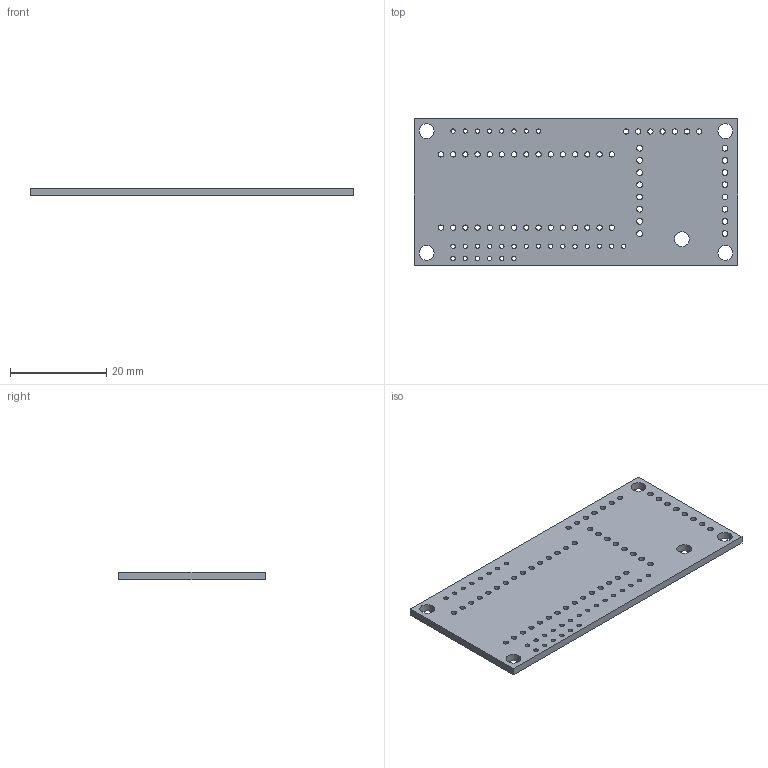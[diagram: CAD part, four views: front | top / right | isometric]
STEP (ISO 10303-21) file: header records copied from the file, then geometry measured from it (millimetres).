
FILE_DESCRIPTION (( 'STEP AP214' ), '1' );
FILE_NAME ('TU_CLASSIC_V1.7.STEP', '2021-06-17T10:57:13', ( '' ), ( '' ), 'SwSTEP 2.0', 'SolidWorks 2020', '' );
FILE_SCHEMA (( 'AUTOMOTIVE_DESIGN' ));
Length unit declared in the file: millimetre
Products named in the file (1): TU_CLASSIC_V1.7
Bounding box: 67.31 x 30.48 x 1.6 mm (x, y, z)
Volume: 3107.5 mm3; surface area: 4707.5 mm2
Topology: 1 solids, 1 shells, 180 faces, 534 edges, 356 vertices
Faces by surface type: cylinder 174, plane 6
Entity records: 6628 total; most frequent: DIRECTION 1244, CARTESIAN_POINT 1071, ORIENTED_EDGE 1068, EDGE_CURVE 534, AXIS2_PLACEMENT_3D 529, VERTEX_POINT 356, EDGE_LOOP 354, CIRCLE 348
